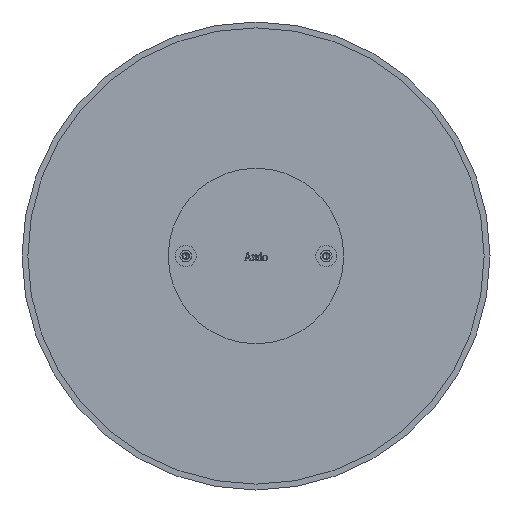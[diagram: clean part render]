
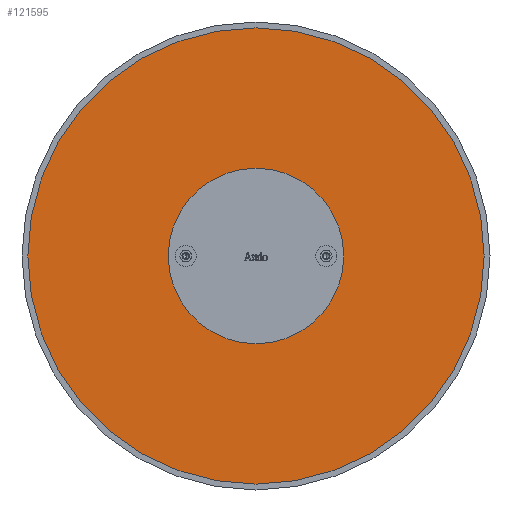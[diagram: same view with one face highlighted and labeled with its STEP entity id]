
A CAD part, front view. The second image highlights one B-rep face of the part: STEP entity #121595.
In plain terms, the highlighted planar face has unit normal (0, -1, 0).
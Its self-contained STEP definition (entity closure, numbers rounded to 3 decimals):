
#1120 = VERTEX_POINT ( 'NONE', #88933 ) ;
#6743 = AXIS2_PLACEMENT_3D ( 'NONE', #68245, #118891, #118221 ) ;
#8200 = VERTEX_POINT ( 'NONE', #19510 ) ;
#14628 = ORIENTED_EDGE ( 'NONE', *, *, #23846, .T. ) ;
#14698 = CIRCLE ( 'NONE', #88236, 195. ) ;
#18357 = CIRCLE ( 'NONE', #89832, 75. ) ;
#19510 = CARTESIAN_POINT ( 'NONE',  ( 0., -54., 75. ) ) ;
#21457 = CIRCLE ( 'NONE', #6743, 195. ) ;
#23846 = EDGE_CURVE ( 'NONE', #66369, #66678, #14698, .T. ) ;
#29549 = ORIENTED_EDGE ( 'NONE', *, *, #36124, .T. ) ;
#36124 = EDGE_CURVE ( 'NONE', #8200, #1120, #18357, .T. ) ;
#37316 = DIRECTION ( 'NONE',  ( 0., 0., -1. ) ) ;
#40212 = CIRCLE ( 'NONE', #73802, 75. ) ;
#42341 = CARTESIAN_POINT ( 'NONE',  ( 0., -54., 0. ) ) ;
#47240 = CARTESIAN_POINT ( 'NONE',  ( 0., -54., 0. ) ) ;
#49796 = PLANE ( 'NONE',  #51358 ) ;
#51358 = AXIS2_PLACEMENT_3D ( 'NONE', #57039, #119519, #37316 ) ;
#51670 = EDGE_LOOP ( 'NONE', ( #14628, #102141 ) ) ;
#55059 = DIRECTION ( 'NONE',  ( 0., 0., 1. ) ) ;
#57039 = CARTESIAN_POINT ( 'NONE',  ( -441.235, -54., -441.235 ) ) ;
#62706 = DIRECTION ( 'NONE',  ( 0., 0., -1. ) ) ;
#66369 = VERTEX_POINT ( 'NONE', #94993 ) ;
#66678 = VERTEX_POINT ( 'NONE', #92741 ) ;
#68245 = CARTESIAN_POINT ( 'NONE',  ( 0., -54., 0. ) ) ;
#73802 = AXIS2_PLACEMENT_3D ( 'NONE', #47240, #116946, #109046 ) ;
#78072 = FACE_OUTER_BOUND ( 'NONE', #51670, .T. ) ;
#88236 = AXIS2_PLACEMENT_3D ( 'NONE', #42341, #123867, #62706 ) ;
#88933 = CARTESIAN_POINT ( 'NONE',  ( 0., -54., -75. ) ) ;
#89832 = AXIS2_PLACEMENT_3D ( 'NONE', #96521, #114936, #55059 ) ;
#92741 = CARTESIAN_POINT ( 'NONE',  ( 0., -54., -195. ) ) ;
#94918 = ORIENTED_EDGE ( 'NONE', *, *, #107684, .T. ) ;
#94993 = CARTESIAN_POINT ( 'NONE',  ( 0., -54., 195. ) ) ;
#96521 = CARTESIAN_POINT ( 'NONE',  ( 0., -54., 0. ) ) ;
#102065 = EDGE_LOOP ( 'NONE', ( #29549, #94918 ) ) ;
#102141 = ORIENTED_EDGE ( 'NONE', *, *, #108688, .T. ) ;
#107684 = EDGE_CURVE ( 'NONE', #1120, #8200, #40212, .T. ) ;
#108688 = EDGE_CURVE ( 'NONE', #66678, #66369, #21457, .T. ) ;
#109046 = DIRECTION ( 'NONE',  ( 0., 0., 1. ) ) ;
#114936 = DIRECTION ( 'NONE',  ( 0., 1., 0. ) ) ;
#116946 = DIRECTION ( 'NONE',  ( 0., 1., 0. ) ) ;
#118221 = DIRECTION ( 'NONE',  ( 0., 0., -1. ) ) ;
#118891 = DIRECTION ( 'NONE',  ( 0., -1., 0. ) ) ;
#119519 = DIRECTION ( 'NONE',  ( 0., -1., 0. ) ) ;
#121595 = ADVANCED_FACE ( 'NONE', ( #78072, #129375 ), #49796, .T. ) ;
#123867 = DIRECTION ( 'NONE',  ( 0., -1., 0. ) ) ;
#129375 = FACE_BOUND ( 'NONE', #102065, .T. ) ;
